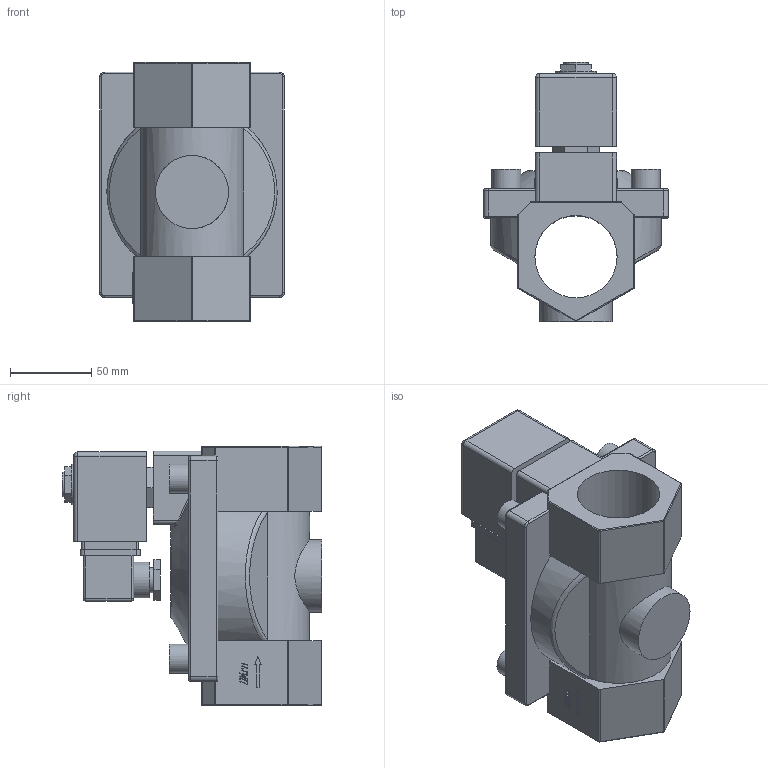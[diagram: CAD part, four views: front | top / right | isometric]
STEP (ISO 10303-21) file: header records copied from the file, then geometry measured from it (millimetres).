
FILE_DESCRIPTION(('STEP AP242'), '1');
FILE_NAME('VS400-NT-NC-24VAC 2 孰囡囗 尻蝠铎嚆龛蝽 DN.ru 捏50 畜16', '', ('UNSPECIFIED'), ('UNSPECIFIED'), 'C3D Converter', 'C3D Toolkit', '');
FILE_SCHEMA(('AP242_MANAGED_MODEL_BASED_3D_ENGINEERING_MIM_LF { 1 0 10303 442 1 1 4 }'));
Length unit declared in the file: millimetre
Products named in the file (1): VS400-NT-NC-24VAC 2
Bounding box: 114 x 160 x 160 mm (x, y, z)
Volume: 905121 mm3; surface area: 118176.7 mm2
Topology: 1 solids, 1 shells, 320 faces, 809 edges, 508 vertices
Faces by surface type: plane 150, cylinder 82, extrusion 40, torus 23, bspline 18, sphere 6, cone 1
Full cylindrical faces by diameter (mm): 15 x1, 15.5 x1, 18 x4, 22 x1, 25 x1, 45 x1, 50.8 x1
Entity records: 16019 total; most frequent: CARTESIAN_POINT 6011, ORIENTED_EDGE 1578, DIRECTION 1402, EDGE_CURVE 789, VECTOR 508, VERTEX_POINT 508, LINE 468, AXIS2_PLACEMENT_3D 447
